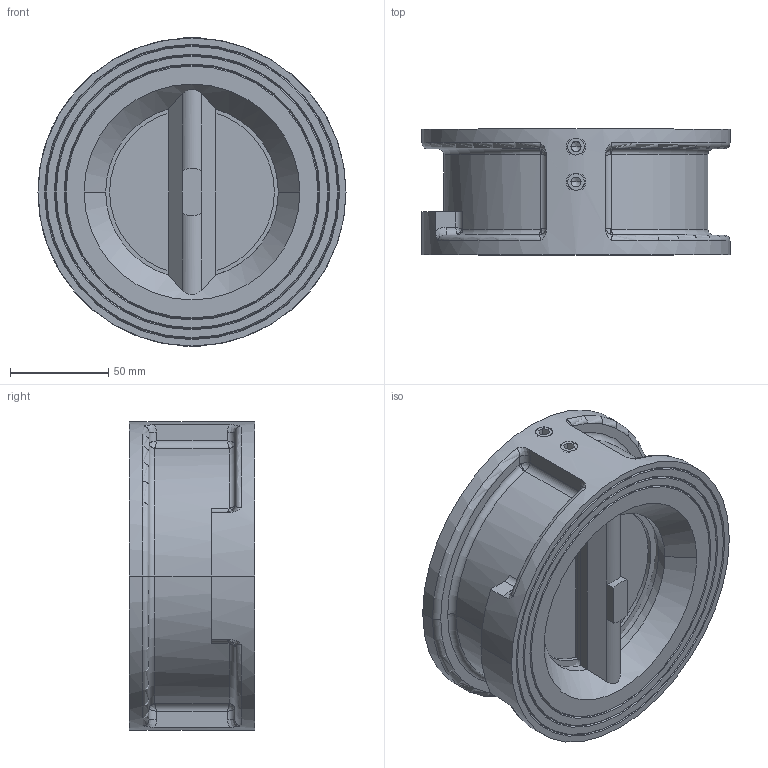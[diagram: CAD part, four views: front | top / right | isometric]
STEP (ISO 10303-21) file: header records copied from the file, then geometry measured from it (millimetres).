
FILE_DESCRIPTION (( 'STEP AP203' ), '1' );
FILE_NAME ('5306 DN100 ×°Åä.STEP', '2025-02-13T05:52:27', ( '' ), ( '' ), 'SwSTEP 2.0', 'SolidWorks 2018', '' );
FILE_SCHEMA (( 'CONFIG_CONTROL_DESIGN' ));
Length unit declared in the file: millimetre
Products named in the file (6): 5306 DN100 境蝶; 5306 DN100 概啣; 5306 DN100 概极; 5306 DN100 概粣; 5306 DN100 蚾饜; GB╱T 77-2007[内六角平端紧定螺钉M10×10]_M10×10
Assembly tree (10 placements, depth 2):
  5306 DN100 蚾饜
    5306 DN100 概极
    5306 DN100 境蝶
    5306 DN100 概粣  x2
    GB╱T 77-2007[内六角平端紧定螺钉M10×10]_M10×10  x4
    5306 DN100 概啣  x2
Bounding box: 157 x 64 x 157 mm (x, y, z)
Volume: 540286.9 mm3; surface area: 140933.9 mm2
Topology: 10 solids, 10 shells, 356 faces, 865 edges, 523 vertices
Faces by surface type: plane 134, cylinder 114, cone 66, bspline 30, torus 12
Entity records: 9810 total; most frequent: CARTESIAN_POINT 3540, DIRECTION 1158, ORIENTED_EDGE 1158, EDGE_CURVE 579, AXIS2_PLACEMENT_3D 455, VERTEX_POINT 355, EDGE_LOOP 272, VECTOR 248
